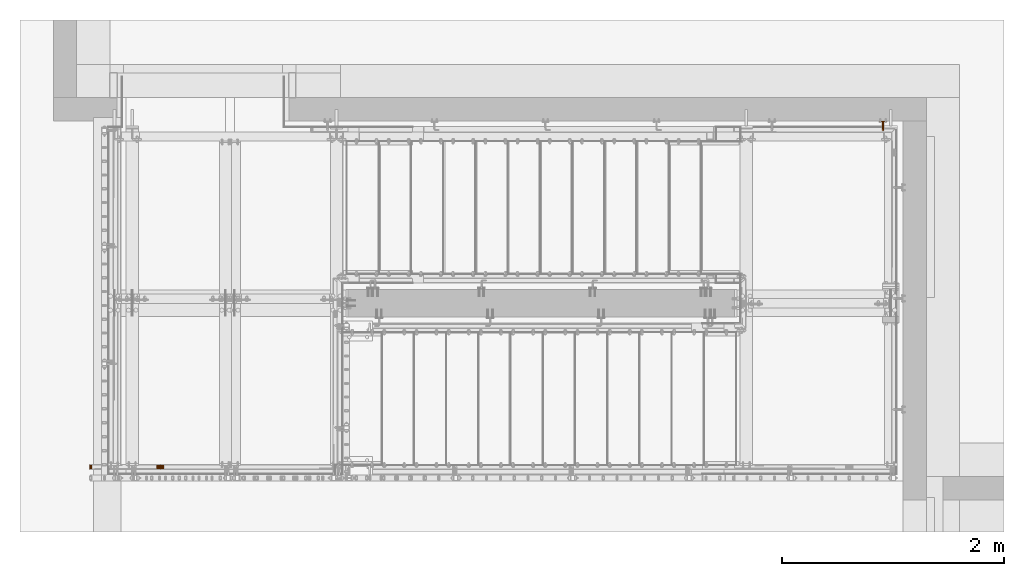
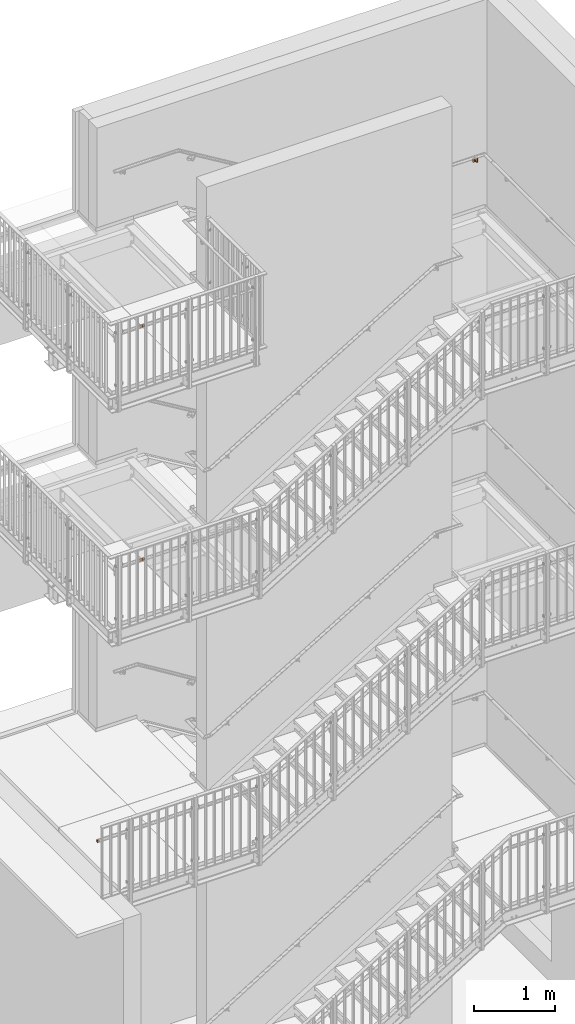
# One storey, part 399 of 410: 4 proxies.
"""IFC2X3 building model written with IfcOpenShell, lengths in millimetres."""

import ifcopenshell
import ifcopenshell.guid

model = None  # the IFC model being written
_history = None  # IfcOwnerHistory: only IFC2X3 demands one
_inside = {}  # id of a spatial element -> (the spatial element, [elements in it])
_under = {}  # id of a project, library or spatial element -> (it, [spatial elements below it])
_declared = {}  # id of a project -> (the project, [libraries it declares])
_typed = {}  # id of a type object -> (the type object, [elements of that type])
_made_of = {}  # id of a material, layer set ... -> (it, [elements and type objects made of it])


def new_model(schema):
    """Start an empty IFC model of exactly this schema.

    Asked for "IFC4X3", IfcOpenShell would pick the latest addendum, in which some entities
    have other attributes; the version numbers below select the first issue.
    IFC2X3 requires an IfcOwnerHistory on every rooted entity: one is made here for all.
    """
    global model, _history
    if schema == "IFC4X3":
        model = ifcopenshell.file(schema_version=(4, 3, 0, 0))
    else:
        model = ifcopenshell.file(schema=schema)
    _inside.clear()
    _under.clear()
    _declared.clear()
    _typed.clear()
    _made_of.clear()
    _history = None
    if model.schema == "IFC2X3":
        org = make("IfcOrganization", Name="unknown")
        user = make(
            "IfcPersonAndOrganization",
            ThePerson=make("IfcPerson", FamilyName="unknown"),
            TheOrganization=org,
        )
        app = make(
            "IfcApplication",
            ApplicationDeveloper=org,
            Version="unknown",
            ApplicationFullName="unknown",
            ApplicationIdentifier="unknown",
        )
        _history = make(
            "IfcOwnerHistory",
            OwningUser=user,
            OwningApplication=app,
            ChangeAction="ADDED",
            CreationDate=0,
        )
    return model


def make(cls, **values):
    """One entity of the class cls with the attributes given. An attribute that is None is left unset."""
    return model.create_entity(
        cls, **{name: value for name, value in values.items() if value is not None}
    )


def entity(cls, *values):
    """Any entity or typed value of the class cls, its attributes in the order of the schema. None: left unset."""
    e = model.create_entity(cls)
    for i, value in enumerate(values):
        if value is not None:
            e[i] = value
    return e


def rooted(cls, **values):
    """An entity with a GlobalId (a new one), such as an element, a storey or a relation."""
    return make(cls, GlobalId=ifcopenshell.guid.new(), OwnerHistory=_history, **values)


def si_unit(unit_type, name, prefix=None):
    """IfcSIUnit, for example si_unit("LENGTHUNIT", "METRE", prefix="MILLI")."""
    return make("IfcSIUnit", UnitType=unit_type, Prefix=prefix, Name=name)


def converted_unit(unit_type, name, factor, base, dimensions=None, offset=None):
    """IfcConversionBasedUnit, such as the inch: factor (a typed value) times the base unit."""
    return make(
        "IfcConversionBasedUnit"
        if offset is None
        else "IfcConversionBasedUnitWithOffset",
        ConversionOffset=offset,
        Dimensions=None
        if dimensions is None
        else entity("IfcDimensionalExponents", *dimensions),
        UnitType=unit_type,
        Name=name,
        ConversionFactor=make(
            "IfcMeasureWithUnit", ValueComponent=factor, UnitComponent=base
        ),
    )


def assignment(units):
    """IfcUnitAssignment: the units of a project."""
    return None if units is None else make("IfcUnitAssignment", Units=units)


def point(xyz):
    """IfcCartesianPoint."""
    return None if xyz is None else make("IfcCartesianPoint", Coordinates=xyz)


def direction(xyz):
    """IfcDirection."""
    return None if xyz is None else make("IfcDirection", DirectionRatios=xyz)


def frame(location, z_axis=None, x_axis=None):
    """IfcAxis2Placement3D, a coordinate frame: its origin and axes. An axis left out is left unset."""
    return make(
        "IfcAxis2Placement3D",
        Location=point(location),
        Axis=direction(z_axis),
        RefDirection=direction(x_axis),
    )


def origin_with_axes():
    """The frame at (0, 0, 0) with the z axis (0, 0, 1) and the x axis (1, 0, 0) written out."""
    return frame((0.0, 0.0, 0.0), z_axis=(0.0, 0.0, 1.0), x_axis=(1.0, 0.0, 0.0))


def place(relative_to, where):
    """IfcLocalPlacement: puts the frame where relative to a parent placement (None: the world)."""
    return make(
        "IfcLocalPlacement", PlacementRelTo=relative_to, RelativePlacement=where
    )


def context(
    kind, dimensions, precision=None, world=None, true_north=None, identifier=None
):
    """IfcGeometricRepresentationContext, for example the 3D "Model" context."""
    return make(
        "IfcGeometricRepresentationContext",
        ContextIdentifier=identifier,
        ContextType=kind,
        CoordinateSpaceDimension=dimensions,
        Precision=precision,
        WorldCoordinateSystem=world,
        TrueNorth=true_north,
    )


def project(units=None, contexts=None):
    """IfcProject with its units and contexts."""
    return rooted(
        "IfcProject",
        Name="project",
        RepresentationContexts=contexts,
        UnitsInContext=assignment(units),
    )


def spatial(cls, under=None, at=None, **own):
    """A site, building, storey or space (cls), placed at a placement, below another one or the project."""
    s = rooted(cls, ObjectPlacement=at, **own)
    if under is not None:
        _under.setdefault(under.id(), (under, []))[1].append(s)
    return s


def faces_of(points, faces, orient=None, outer=None):
    """IfcFace entities. A face is a list of loops; a loop is a list of indices into points, from 0.

    orient and outer hold one flag for each loop. By default every Orientation is true, the
    first loop of a face is its IfcFaceOuterBound and the others are IfcFaceBound.
    """
    made = []
    for i, loops in enumerate(faces):
        bounds = []
        for j, loop in enumerate(loops):
            is_outer = j == 0 if outer is None else outer[i][j]
            bounds.append(
                make(
                    "IfcFaceOuterBound" if is_outer else "IfcFaceBound",
                    Bound=make("IfcPolyLoop", Polygon=[points[k] for k in loop]),
                    Orientation=True if orient is None else orient[i][j],
                )
            )
        made.append(make("IfcFace", Bounds=bounds))
    return made


def faceted_brep(points, faces, orient=None, outer=None, voids=None):
    """IfcFacetedBrep: a solid bounded by flat faces; with voids (closed shells), ...WithVoids."""
    shared = [point(p) for p in points]
    hull = make("IfcClosedShell", CfsFaces=faces_of(shared, faces, orient, outer))
    if voids is None:
        return make("IfcFacetedBrep", Outer=hull)
    return make(
        "IfcFacetedBrepWithVoids",
        Outer=hull,
        Voids=[
            make(cls, CfsFaces=faces_of(shared, fs, o, b)) for cls, fs, o, b in voids
        ],
    )


def shape(context_of_items, identifier, shape_type, items):
    """IfcShapeRepresentation: the items that make up one representation, for example the "Body"."""
    return make(
        "IfcShapeRepresentation",
        ContextOfItems=context_of_items,
        RepresentationIdentifier=identifier,
        RepresentationType=shape_type,
        Items=items,
    )


def made_of(thing, what):
    """Note that an element or type object is made of a material, layer set ...; save() writes the relation."""
    if what is not None:
        _made_of.setdefault(what.id(), (what, []))[1].append(thing)
    return thing


def element(
    cls,
    number,
    at=None,
    inside=None,
    cuts=None,
    type_object=None,
    material=None,
    context=None,
    identifier="Body",
    shape_type=None,
    held_by="IfcProductDefinitionShape",
    body=None,
    shapes=None,
    **own,
):
    """One element of the class cls, such as IfcWall. Its Tag is "e" and its number.

    at: its placement. inside: the storey or other place that contains it. cuts: it is an
    opening in that element (IfcRelVoidsElement). A single representation is given by context,
    identifier, shape_type and body (its items); several are given by shapes. held_by: the class
    of the entity that holds the representations. save() writes the other relations.
    """
    e = rooted(cls, Tag="e%d" % number, ObjectPlacement=at, **own)
    if body is not None:
        shapes = [shape(context, identifier, shape_type, body)]
    if shapes is not None:
        e.Representation = make(held_by, Representations=shapes)
    if inside is not None:
        _inside.setdefault(inside.id(), (inside, []))[1].append(e)
    if cuts is not None:
        rooted(
            "IfcRelVoidsElement", RelatingBuildingElement=cuts, RelatedOpeningElement=e
        )
    if type_object is not None:
        _typed.setdefault(type_object.id(), (type_object, []))[1].append(e)
    return made_of(e, material)


def aggregate(whole, parts):
    """IfcRelAggregates: a whole, such as a stair, and the parts it consists of."""
    return rooted("IfcRelAggregates", RelatingObject=whole, RelatedObjects=parts)


def save(model, path):
    """Write the relations noted so far, then the file.

    IfcRelAggregates (storeys below a building ...), IfcRelContainedInSpatialStructure (elements
    in a storey), IfcRelDefinesByType, IfcRelAssociatesMaterial and IfcRelDeclares: one each for
    every whole, place, type object, material and project.
    """
    for whole, parts in _under.values():
        aggregate(whole, parts)
    for where, things in _inside.values():
        rooted(
            "IfcRelContainedInSpatialStructure",
            RelatedElements=things,
            RelatingStructure=where,
        )
    for kind, things in _typed.values():
        rooted("IfcRelDefinesByType", RelatedObjects=things, RelatingType=kind)
    for what, things in _made_of.values():
        rooted("IfcRelAssociatesMaterial", RelatedObjects=things, RelatingMaterial=what)
    for by, libraries in _declared.values():
        rooted("IfcRelDeclares", RelatingContext=by, RelatedDefinitions=libraries)
    model.write(path)


model = new_model("IFC2X3")

# Units and contexts
model_context = context("Model", 3, precision=1e-09, world=origin_with_axes())
ifc_project = project(units=[si_unit("LENGTHUNIT", "METRE", prefix="MILLI"), si_unit("AREAUNIT", "SQUARE_METRE"), si_unit("VOLUMEUNIT", "CUBIC_METRE"), converted_unit("PLANEANGLEUNIT", "DEGREE", entity("IfcPlaneAngleMeasure", 0.01745329), si_unit("PLANEANGLEUNIT", "RADIAN"), dimensions=[0, 0, 0, 0, 0, 0, 0])], contexts=[model_context])

# Site, building, storey
site_placement = place(None, origin_with_axes())
site = spatial("IfcSite", under=ifc_project, at=site_placement, Name="mKR Teilneubau & Sanierung BA1 - Ostfildern", CompositionType="ELEMENT")
building_placement = place(site_placement, origin_with_axes())
building = spatial("IfcBuilding", under=site, at=building_placement, Name="Struktur 1", CompositionType="ELEMENT")
storey_placement = place(building_placement, origin_with_axes())
storey = spatial("IfcBuildingStorey", under=building, at=storey_placement, Name="Default Storey", CompositionType="ELEMENT", Elevation=0.0)

# Proxies
proxy_1_placement = place(None, origin_with_axes())
element("IfcBuildingElementProxy", 1, at=proxy_1_placement, inside=storey, ObjectType="-", context=model_context, shape_type="Brep", body=[
    faceted_brep([(3081.31860902, 18620.000061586, 6659.725), (3081.31860902, 18614.000061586, 6659.725), (3080.749216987, 18614.000061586, 6657.6), (3080.749216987, 18620.000061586, 6657.6), (3129.142402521, 18614.000061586, 6686.900826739), (3118.591209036, 18614.000061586, 6691.529009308), (3107.108939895, 18614.000061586, 6692.480457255), (3095.939877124, 18614.000061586, 6689.652066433), (3086.29436198, 18614.000061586, 6683.350336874), (3079.217635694, 18614.000061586, 6674.258158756), (3075.476571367, 18614.000061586, 6663.36081066), (3075.476571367, 18614.000061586, 6651.83918934), (3079.217635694, 18614.000061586, 6640.941841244), (3086.29436198, 18614.000061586, 6631.849663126), (3095.939877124, 18614.000061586, 6625.547933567), (3107.108939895, 18614.000061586, 6622.719542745), (3118.591209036, 18614.000061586, 6623.670990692), (3129.142402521, 18614.000061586, 6628.299173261), (3137.619134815, 18614.000061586, 6636.102555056), (3143.102820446, 18614.000061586, 6646.235518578), (3144.999216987, 18614.000061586, 6657.6), (3143.102820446, 18614.000061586, 6668.964481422), (3137.619134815, 18614.000061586, 6679.097444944), (3082.874216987, 18614.000061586, 6661.280607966), (3084.999216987, 18614.000061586, 6661.85), (3087.124216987, 18614.000061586, 6661.280607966), (3088.679824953, 18614.000061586, 6659.725), (3089.249216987, 18614.000061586, 6657.6), (3088.679824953, 18614.000061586, 6655.475), (3087.124216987, 18614.000061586, 6653.919392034), (3084.999216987, 18614.000061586, 6653.35), (3082.874216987, 18614.000061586, 6653.919392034), (3081.31860902, 18614.000061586, 6655.475), (3131.31860902, 18614.000061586, 6659.725), (3132.874216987, 18614.000061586, 6661.280607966), (3134.999216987, 18614.000061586, 6661.85), (3137.124216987, 18614.000061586, 6661.280607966), (3138.679824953, 18614.000061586, 6659.725), (3139.249216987, 18614.000061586, 6657.6), (3138.679824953, 18614.000061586, 6655.475), (3137.124216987, 18614.000061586, 6653.919392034), (3134.999216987, 18614.000061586, 6653.35), (3132.874216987, 18614.000061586, 6653.919392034), (3131.31860902, 18614.000061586, 6655.475), (3130.749216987, 18614.000061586, 6657.6), (3082.874216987, 18620.000061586, 6661.280607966), (3129.142402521, 18620.000061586, 6628.299173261), (3118.591209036, 18620.000061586, 6623.670990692), (3107.108939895, 18620.000061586, 6622.719542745), (3095.939877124, 18620.000061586, 6625.547933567), (3086.29436198, 18620.000061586, 6631.849663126), (3079.217635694, 18620.000061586, 6640.941841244), (3075.476571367, 18620.000061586, 6651.83918934), (3075.476571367, 18620.000061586, 6663.36081066), (3079.217635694, 18620.000061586, 6674.258158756), (3086.29436198, 18620.000061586, 6683.350336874), (3095.939877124, 18620.000061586, 6689.652066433), (3107.108939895, 18620.000061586, 6692.480457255), (3118.591209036, 18620.000061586, 6691.529009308), (3129.142402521, 18620.000061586, 6686.900826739), (3137.619134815, 18620.000061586, 6679.097444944), (3143.102820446, 18620.000061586, 6668.964481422), (3144.999216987, 18620.000061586, 6657.6), (3143.102820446, 18620.000061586, 6646.235518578), (3137.619134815, 18620.000061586, 6636.102555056), (3081.31860902, 18620.000061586, 6655.475), (3082.874216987, 18620.000061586, 6653.919392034), (3084.999216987, 18620.000061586, 6653.35), (3087.124216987, 18620.000061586, 6653.919392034), (3088.679824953, 18620.000061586, 6655.475), (3089.249216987, 18620.000061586, 6657.6), (3088.679824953, 18620.000061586, 6659.725), (3087.124216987, 18620.000061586, 6661.280607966), (3084.999216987, 18620.000061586, 6661.85), (3131.31860902, 18620.000061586, 6655.475), (3132.874216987, 18620.000061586, 6653.919392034), (3134.999216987, 18620.000061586, 6653.35), (3137.124216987, 18620.000061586, 6653.919392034), (3138.679824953, 18620.000061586, 6655.475), (3139.249216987, 18620.000061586, 6657.6), (3138.679824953, 18620.000061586, 6659.725), (3137.124216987, 18620.000061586, 6661.280607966), (3134.999216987, 18620.000061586, 6661.85), (3132.874216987, 18620.000061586, 6661.280607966), (3131.31860902, 18620.000061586, 6659.725), (3130.749216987, 18620.000061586, 6657.6)], [[[0, 1, 2, 3]], [[4, 5, 6, 7, 8, 9, 10, 11, 12, 13, 14, 15, 16, 17, 18, 19, 20, 21, 22], [2, 1, 23, 24, 25, 26, 27, 28, 29, 30, 31, 32], [33, 34, 35, 36, 37, 38, 39, 40, 41, 42, 43, 44]], [[1, 0, 45, 23]], [[46, 47, 48, 49, 50, 51, 52, 53, 54, 55, 56, 57, 58, 59, 60, 61, 62, 63, 64], [0, 3, 65, 66, 67, 68, 69, 70, 71, 72, 73, 45], [74, 75, 76, 77, 78, 79, 80, 81, 82, 83, 84, 85]], [[3, 2, 32, 65]], [[10, 53, 52, 11]], [[65, 32, 31, 66]], [[23, 45, 73, 24]], [[53, 10, 9, 54]], [[66, 31, 30, 67]], [[11, 52, 51, 12]], [[24, 73, 72, 25]], [[8, 55, 54, 9]], [[67, 30, 29, 68]], [[55, 8, 7, 56]], [[50, 13, 12, 51]], [[25, 72, 71, 26]], [[13, 50, 49, 14]], [[68, 29, 28, 69]], [[26, 71, 70, 27]], [[56, 7, 6, 57]], [[69, 28, 27, 70]], [[14, 49, 48, 15]], [[57, 6, 5, 58]], [[44, 85, 84, 33]], [[15, 48, 47, 16]], [[85, 44, 43, 74]], [[33, 84, 83, 34]], [[58, 5, 4, 59]], [[16, 47, 46, 17]], [[74, 43, 42, 75]], [[34, 83, 82, 35]], [[59, 4, 22, 60]], [[17, 46, 64, 18]], [[75, 42, 41, 76]], [[35, 82, 81, 36]], [[60, 22, 21, 61]], [[18, 64, 63, 19]], [[76, 41, 40, 77]], [[20, 62, 61, 21]], [[36, 81, 80, 37]], [[62, 20, 19, 63]], [[77, 40, 39, 78]], [[37, 80, 79, 38]], [[78, 39, 38, 79]]]),
    faceted_brep([(3115.999216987, 18558.000061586, 6657.6), (3115.999216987, 18614.000061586, 6657.6), (3115.195369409, 18614.000061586, 6660.6), (3115.195369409, 18558.000061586, 6660.6), (3115.195369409, 18537.000061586, 6675.6), (3115.195369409, 18537.000061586, 6732.6), (3112.999216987, 18534.803909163, 6732.6), (3112.999216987, 18534.803909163, 6675.6), (3115.999216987, 18540.000061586, 6675.6), (3115.999216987, 18540.000061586, 6732.6), (3112.999216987, 18536.569611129, 6666.723216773), (3115.195369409, 18538.598591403, 6667.56364792), (3106.999216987, 18614.000061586, 6652.403847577), (3104.803064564, 18614.000061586, 6654.6), (3103.999216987, 18614.000061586, 6657.6), (3104.803064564, 18614.000061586, 6660.6), (3106.999216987, 18614.000061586, 6662.796152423), (3109.999216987, 18614.000061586, 6663.6), (3112.999216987, 18614.000061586, 6662.796152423), (3115.195369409, 18614.000061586, 6654.6), (3112.999216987, 18614.000061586, 6652.403847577), (3109.999216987, 18614.000061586, 6651.6), (3115.195369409, 18558.000061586, 6654.6), (3115.195369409, 18552.2598101, 6661.741807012), (3115.999216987, 18551.111759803, 6658.970168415), (3106.999216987, 18545.196214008, 6732.6), (3104.803064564, 18543.000061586, 6732.6), (3103.999216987, 18540.000061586, 6732.6), (3104.803064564, 18537.000061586, 6732.6), (3106.999216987, 18534.803909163, 6732.6), (3109.999216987, 18534.000061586, 6732.6), (3115.195369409, 18543.000061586, 6732.6), (3112.999216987, 18545.196214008, 6732.6), (3109.999216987, 18546.000061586, 6732.6), (3115.999216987, 18541.37023, 6668.711698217), (3115.195369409, 18543.150819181, 6660.750757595), (3115.999216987, 18545.272139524, 6662.872077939), (3112.999216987, 18558.000061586, 6662.796152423), (3115.195369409, 18549.963709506, 6656.198529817), (3109.999216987, 18534.000061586, 6675.6), (3115.195369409, 18543.000061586, 6675.6), (3109.999216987, 18535.826952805, 6666.415597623), (3112.999216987, 18541.59790491, 6659.197843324), (3115.195369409, 18547.393459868, 6664.993398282), (3112.999216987, 18553.100241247, 6663.770787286), (3112.999216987, 18558.000061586, 6652.403847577), (3115.195369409, 18544.141868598, 6669.859748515), (3109.999216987, 18558.000061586, 6663.6), (3112.999216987, 18549.123278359, 6654.169549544), (3106.999216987, 18534.803909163, 6675.6), (3112.999216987, 18545.196214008, 6675.6), (3106.999216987, 18536.569611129, 6666.723216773), (3109.999216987, 18541.029498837, 6658.629437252), (3112.999216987, 18548.946374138, 6666.546312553), (3109.999216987, 18553.407860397, 6664.51344561), (3109.999216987, 18558.000061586, 6651.6), (3112.999216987, 18546.170848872, 6670.700179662), (3104.803064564, 18537.000061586, 6675.6), (3106.999216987, 18558.000061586, 6662.796152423), (3109.999216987, 18548.815659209, 6653.42689122), (3109.999216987, 18546.000061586, 6675.6), (3104.803064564, 18538.598591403, 6667.56364792), (3106.999216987, 18541.59790491, 6659.197843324), (3109.999216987, 18549.514780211, 6667.114718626), (3106.999216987, 18553.100241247, 6663.770787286), (3106.999216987, 18558.000061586, 6652.403847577), (3109.999216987, 18546.913507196, 6671.007798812), (3103.999216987, 18540.000061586, 6675.6), (3104.803064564, 18558.000061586, 6660.6), (3106.999216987, 18549.123278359, 6654.169549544), (3106.999216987, 18545.196214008, 6675.6), (3104.803064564, 18543.000061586, 6675.6), (3103.999216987, 18541.37023, 6668.711698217), (3104.803064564, 18543.150819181, 6660.750757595), (3106.999216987, 18548.946374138, 6666.546312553), (3104.803064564, 18552.2598101, 6661.741807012), (3103.999216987, 18558.000061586, 6657.6), (3104.803064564, 18558.000061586, 6654.6), (3106.999216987, 18546.170848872, 6670.700179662), (3104.803064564, 18549.963709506, 6656.198529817), (3104.803064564, 18544.141868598, 6669.859748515), (3103.999216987, 18545.272139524, 6662.872077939), (3103.999216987, 18551.111759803, 6658.970168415), (3104.803064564, 18547.393459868, 6664.993398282)], [[[0, 1, 2, 3]], [[4, 5, 6, 7]], [[5, 4, 8, 9]], [[4, 7, 10, 11]], [[12, 13, 14, 15, 16, 17, 18, 2, 1, 19, 20, 21]], [[1, 0, 22, 19]], [[0, 3, 23, 24]], [[25, 26, 27, 28, 29, 30, 6, 5, 9, 31, 32, 33]], [[11, 34, 8, 4]], [[35, 36, 34, 11]], [[3, 2, 18, 37]], [[24, 38, 22, 0]], [[36, 35, 38, 24]], [[7, 6, 30, 39]], [[9, 8, 40, 31]], [[7, 39, 41, 10]], [[11, 10, 42, 35]], [[24, 23, 43, 36]], [[3, 37, 44, 23]], [[19, 22, 45, 20]], [[36, 43, 46, 34]], [[34, 46, 40, 8]], [[37, 18, 17, 47]], [[38, 48, 45, 22]], [[35, 42, 48, 38]], [[39, 30, 29, 49]], [[31, 40, 50, 32]], [[39, 49, 51, 41]], [[10, 41, 52, 42]], [[23, 44, 53, 43]], [[37, 47, 54, 44]], [[20, 45, 55, 21]], [[43, 53, 56, 46]], [[46, 56, 50, 40]], [[49, 29, 28, 57]], [[47, 17, 16, 58]], [[48, 59, 55, 45]], [[42, 52, 59, 48]], [[32, 50, 60, 33]], [[49, 57, 61, 51]], [[41, 51, 62, 52]], [[44, 54, 63, 53]], [[47, 58, 64, 54]], [[21, 55, 65, 12]], [[56, 66, 60, 50]], [[53, 63, 66, 56]], [[57, 28, 27, 67]], [[58, 16, 15, 68]], [[59, 69, 65, 55]], [[52, 62, 69, 59]], [[33, 60, 70, 25]], [[26, 71, 67, 27]], [[25, 70, 71, 26]], [[57, 67, 72, 61]], [[51, 61, 73, 62]], [[54, 64, 74, 63]], [[58, 68, 75, 64]], [[14, 76, 68, 15]], [[13, 77, 76, 14]], [[12, 65, 77, 13]], [[66, 78, 70, 60]], [[63, 74, 78, 66]], [[69, 79, 77, 65]], [[62, 73, 79, 69]], [[67, 71, 80, 72]], [[71, 70, 78, 80]], [[61, 72, 81, 73]], [[68, 76, 82, 75]], [[64, 75, 83, 74]], [[76, 77, 79, 82]], [[74, 83, 80, 78]], [[73, 81, 82, 79]], [[72, 80, 83, 81]], [[75, 82, 81, 83]]]),
])
proxy_2_placement = place(None, origin_with_axes())
element("IfcBuildingElementProxy", 2, at=proxy_2_placement, inside=storey, ObjectType="-", context=model_context, shape_type="Brep", body=[
    faceted_brep([(-4033.78424607, 15501.592272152, 849.536729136), (-4033.78424607, 15493.538952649, 845.951160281), (-4030.78424607, 15493.538952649, 845.951160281), (-4030.78424607, 15501.592272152, 849.536729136), (-4030.78424607, 15518.461047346, 845.951160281), (-4030.78424607, 15510.407727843, 849.536729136), (-4030.78424607, 15487.640261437, 839.4), (-4030.78424607, 15484.916135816, 831.016003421), (-4030.78424607, 15485.837601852, 822.248839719), (-4030.78424607, 15490.245329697, 814.614431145), (-4030.78424607, 15497.377183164, 809.432836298), (-4030.78424607, 15505.999999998, 807.6), (-4030.78424607, 15514.622816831, 809.432836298), (-4030.78424607, 15521.754670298, 814.614431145), (-4030.78424607, 15526.162398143, 822.248839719), (-4030.78424607, 15527.083864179, 831.016003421), (-4030.78424607, 15524.359738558, 839.4), (-4030.78424607, 15510.005376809, 846.348702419), (-4030.78424607, 15517.222816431, 842.872966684), (-4030.78424607, 15522.21743962, 836.609907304), (-4030.78424607, 15523.999999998, 828.8), (-4030.78424607, 15522.21743962, 820.990092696), (-4030.78424607, 15517.222816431, 814.727033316), (-4030.78424607, 15510.005376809, 811.251297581), (-4030.78424607, 15501.994623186, 811.251297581), (-4030.78424607, 15494.777183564, 814.727033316), (-4030.78424607, 15489.782560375, 820.990092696), (-4030.78424607, 15487.999999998, 828.8), (-4030.78424607, 15489.782560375, 836.609907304), (-4030.78424607, 15494.777183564, 842.872966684), (-4030.78424607, 15501.994623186, 846.348702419), (-4033.78424607, 15510.407727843, 849.536729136), (-4033.78424607, 15521.754670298, 814.614431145), (-4033.78424607, 15514.622816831, 809.432836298), (-4033.78424607, 15505.999999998, 807.6), (-4033.78424607, 15497.377183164, 809.432836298), (-4033.78424607, 15490.245329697, 814.614431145), (-4033.78424607, 15485.837601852, 822.248839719), (-4033.78424607, 15484.916135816, 831.016003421), (-4033.78424607, 15487.640261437, 839.4), (-4033.78424607, 15518.461047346, 845.951160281), (-4033.78424607, 15524.359738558, 839.4), (-4033.78424607, 15527.083864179, 831.016003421), (-4033.78424607, 15526.162398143, 822.248839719), (-4010.78424607, 15501.994623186, 846.348702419), (-4010.78424607, 15494.777183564, 842.872966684), (-4010.78424607, 15510.005376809, 846.348702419), (-4010.78424607, 15494.777183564, 814.727033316), (-4010.78424607, 15501.994623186, 811.251297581), (-4010.78424607, 15510.005376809, 811.251297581), (-4010.78424607, 15517.222816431, 814.727033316), (-4010.78424607, 15522.21743962, 820.990092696), (-4010.78424607, 15523.999999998, 828.8), (-4010.78424607, 15522.21743962, 836.609907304), (-4010.78424607, 15517.222816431, 842.872966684), (-4010.78424607, 15489.782560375, 836.609907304), (-4010.78424607, 15487.999999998, 828.8), (-4010.78424607, 15489.782560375, 820.990092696)], [[[0, 1, 2, 3]], [[4, 5, 3, 2, 6, 7, 8, 9, 10, 11, 12, 13, 14, 15, 16], [17, 18, 19, 20, 21, 22, 23, 24, 25, 26, 27, 28, 29, 30]], [[3, 5, 31, 0]], [[32, 33, 34, 35, 36, 37, 38, 39, 1, 0, 31, 40, 41, 42, 43]], [[44, 30, 29, 45]], [[30, 44, 46, 17]], [[1, 39, 6, 2]], [[5, 4, 40, 31]], [[47, 48, 49, 50, 51, 52, 53, 54, 46, 44, 45, 55, 56, 57]], [[45, 29, 28, 55]], [[17, 46, 54, 18]], [[39, 38, 7, 6]], [[4, 16, 41, 40]], [[55, 28, 27, 56]], [[18, 54, 53, 19]], [[38, 37, 8, 7]], [[16, 15, 42, 41]], [[9, 8, 37, 36]], [[56, 27, 26, 57]], [[19, 53, 52, 20]], [[10, 9, 36, 35]], [[15, 14, 43, 42]], [[25, 47, 57, 26]], [[35, 34, 11, 10]], [[20, 52, 51, 21]], [[47, 25, 24, 48]], [[14, 13, 32, 43]], [[48, 24, 23, 49]], [[34, 33, 12, 11]], [[33, 32, 13, 12]], [[21, 51, 50, 22]], [[49, 23, 22, 50]]]),
])
proxy_3_placement = place(None, origin_with_axes())
element("IfcBuildingElementProxy", 3, at=proxy_3_placement, inside=storey, ObjectType="-", context=model_context, shape_type="Brep", body=[
    faceted_brep([(-3429.9485317, 15517.222816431, 8314.727033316), (-3429.9485317, 15510.005376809, 8311.251297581), (-3429.9485317, 15501.994623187, 8311.251297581), (-3429.9485317, 15494.777183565, 8314.727033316), (-3429.9485317, 15489.782560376, 8320.990092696), (-3429.9485317, 15487.999999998, 8328.8), (-3429.9485317, 15489.782560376, 8336.609907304), (-3429.9485317, 15494.777183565, 8342.872966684), (-3429.9485317, 15501.994623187, 8346.348702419), (-3429.9485317, 15510.005376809, 8346.348702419), (-3429.9485317, 15517.222816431, 8342.872966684), (-3429.9485317, 15522.21743962, 8336.609907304), (-3429.9485317, 15523.999999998, 8328.8), (-3429.9485317, 15522.21743962, 8320.990092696), (-3399.9485317, 15501.994623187, 8346.348702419), (-3399.9485317, 15510.005376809, 8346.348702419), (-3399.9485317, 15517.222816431, 8342.872966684), (-3399.9485317, 15494.777183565, 8342.872966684), (-3399.9485317, 15494.777183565, 8314.727033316), (-3399.9485317, 15501.994623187, 8311.251297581), (-3399.9485317, 15510.005376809, 8311.251297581), (-3399.9485317, 15517.222816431, 8314.727033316), (-3399.9485317, 15522.21743962, 8320.990092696), (-3399.9485317, 15523.999999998, 8328.8), (-3399.9485317, 15522.21743962, 8336.609907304), (-3399.9485317, 15489.782560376, 8336.609907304), (-3399.9485317, 15487.999999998, 8328.8), (-3399.9485317, 15489.782560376, 8320.990092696)], [[[0, 1, 2, 3, 4, 5, 6, 7, 8, 9, 10, 11, 12, 13]], [[8, 14, 15, 9]], [[9, 15, 16, 10]], [[14, 8, 7, 17]], [[18, 19, 20, 21, 22, 23, 24, 16, 15, 14, 17, 25, 26, 27]], [[10, 16, 24, 11]], [[17, 7, 6, 25]], [[11, 24, 23, 12]], [[25, 6, 5, 26]], [[12, 23, 22, 13]], [[26, 5, 4, 27]], [[1, 20, 19, 2]], [[0, 21, 20, 1]], [[13, 22, 21, 0]], [[27, 4, 3, 18]], [[2, 19, 18, 3]]]),
    faceted_brep([(-3399.9485317, 15484.799999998, 8328.8), (-3394.9485317, 15484.799999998, 8328.8), (-3394.9485317, 15486.632836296, 8337.422816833), (-3399.9485317, 15486.632836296, 8337.422816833), (-3399.9485317, 15486.632836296, 8320.177183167), (-3394.9485317, 15486.632836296, 8320.177183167), (-3394.9485317, 15516.599999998, 8310.44026144), (-3394.9485317, 15523.151160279, 8316.338952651), (-3394.9485317, 15526.736729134, 8324.392272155), (-3394.9485317, 15526.736729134, 8333.207727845), (-3394.9485317, 15523.151160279, 8341.261047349), (-3394.9485317, 15516.599999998, 8347.15973856), (-3394.9485317, 15508.216003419, 8349.883864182), (-3394.9485317, 15499.448839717, 8348.962398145), (-3394.9485317, 15491.814431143, 8344.5546703), (-3394.9485317, 15491.814431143, 8313.0453297), (-3394.9485317, 15499.448839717, 8308.637601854), (-3394.9485317, 15508.216003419, 8307.716135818), (-3399.9485317, 15516.599999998, 8347.15973856), (-3399.9485317, 15523.151160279, 8341.261047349), (-3399.9485317, 15526.736729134, 8333.207727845), (-3399.9485317, 15526.736729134, 8324.392272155), (-3399.9485317, 15523.151160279, 8316.338952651), (-3399.9485317, 15516.599999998, 8310.44026144), (-3399.9485317, 15508.216003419, 8307.716135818), (-3399.9485317, 15499.448839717, 8308.637601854), (-3399.9485317, 15491.814431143, 8313.0453297), (-3399.9485317, 15491.814431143, 8344.5546703), (-3399.9485317, 15499.448839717, 8348.962398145), (-3399.9485317, 15508.216003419, 8349.883864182)], [[[0, 1, 2, 3]], [[1, 0, 4, 5]], [[6, 7, 8, 9, 10, 11, 12, 13, 14, 2, 1, 5, 15, 16, 17]], [[18, 19, 20, 21, 22, 23, 24, 25, 26, 4, 0, 3, 27, 28, 29]], [[3, 2, 14, 27]], [[5, 4, 26, 15]], [[27, 14, 13, 28]], [[15, 26, 25, 16]], [[12, 29, 28, 13]], [[16, 25, 24, 17]], [[29, 12, 11, 18]], [[18, 11, 10, 19]], [[17, 24, 23, 6]], [[22, 7, 6, 23]], [[21, 8, 7, 22]], [[20, 9, 8, 21]], [[19, 10, 9, 20]]]),
    faceted_brep([(-3394.9485317, 15517.222816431, 8314.727033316), (-3394.9485317, 15510.005376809, 8311.251297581), (-3394.9485317, 15501.994623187, 8311.251297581), (-3394.9485317, 15494.777183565, 8314.727033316), (-3394.9485317, 15489.782560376, 8320.990092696), (-3394.9485317, 15487.999999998, 8328.8), (-3394.9485317, 15489.782560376, 8336.609907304), (-3394.9485317, 15494.777183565, 8342.872966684), (-3394.9485317, 15501.994623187, 8346.348702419), (-3394.9485317, 15510.005376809, 8346.348702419), (-3394.9485317, 15517.222816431, 8342.872966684), (-3394.9485317, 15522.21743962, 8336.609907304), (-3394.9485317, 15523.999999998, 8328.8), (-3394.9485317, 15522.21743962, 8320.990092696), (-3364.9485317, 15501.994623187, 8346.348702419), (-3364.9485317, 15510.005376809, 8346.348702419), (-3364.9485317, 15517.222816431, 8342.872966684), (-3364.9485317, 15494.777183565, 8342.872966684), (-3364.9485317, 15494.777183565, 8314.727033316), (-3364.9485317, 15501.994623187, 8311.251297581), (-3364.9485317, 15510.005376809, 8311.251297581), (-3364.9485317, 15517.222816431, 8314.727033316), (-3364.9485317, 15522.21743962, 8320.990092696), (-3364.9485317, 15523.999999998, 8328.8), (-3364.9485317, 15522.21743962, 8336.609907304), (-3364.9485317, 15489.782560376, 8336.609907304), (-3364.9485317, 15487.999999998, 8328.8), (-3364.9485317, 15489.782560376, 8320.990092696)], [[[0, 1, 2, 3, 4, 5, 6, 7, 8, 9, 10, 11, 12, 13]], [[8, 14, 15, 9]], [[9, 15, 16, 10]], [[14, 8, 7, 17]], [[18, 19, 20, 21, 22, 23, 24, 16, 15, 14, 17, 25, 26, 27]], [[10, 16, 24, 11]], [[17, 7, 6, 25]], [[11, 24, 23, 12]], [[25, 6, 5, 26]], [[12, 23, 22, 13]], [[26, 5, 4, 27]], [[1, 20, 19, 2]], [[20, 1, 0, 21]], [[3, 18, 27, 4]], [[2, 19, 18, 3]], [[13, 22, 21, 0]]]),
])
proxy_4_placement = place(None, origin_with_axes())
element("IfcBuildingElementProxy", 4, at=proxy_4_placement, inside=storey, ObjectType="-", context=model_context, shape_type="Brep", body=[
    faceted_brep([(-3429.9485317, 15517.222816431, 4814.727033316), (-3429.9485317, 15510.005376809, 4811.251297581), (-3429.9485317, 15501.994623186, 4811.251297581), (-3429.9485317, 15494.777183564, 4814.727033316), (-3429.9485317, 15489.782560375, 4820.990092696), (-3429.9485317, 15487.999999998, 4828.8), (-3429.9485317, 15489.782560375, 4836.609907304), (-3429.9485317, 15494.777183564, 4842.872966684), (-3429.9485317, 15501.994623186, 4846.348702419), (-3429.9485317, 15510.005376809, 4846.348702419), (-3429.9485317, 15517.222816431, 4842.872966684), (-3429.9485317, 15522.21743962, 4836.609907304), (-3429.9485317, 15523.999999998, 4828.8), (-3429.9485317, 15522.21743962, 4820.990092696), (-3399.9485317, 15501.994623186, 4846.348702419), (-3399.9485317, 15510.005376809, 4846.348702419), (-3399.9485317, 15517.222816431, 4842.872966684), (-3399.9485317, 15494.777183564, 4842.872966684), (-3399.9485317, 15494.777183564, 4814.727033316), (-3399.9485317, 15501.994623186, 4811.251297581), (-3399.9485317, 15510.005376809, 4811.251297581), (-3399.9485317, 15517.222816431, 4814.727033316), (-3399.9485317, 15522.21743962, 4820.990092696), (-3399.9485317, 15523.999999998, 4828.8), (-3399.9485317, 15522.21743962, 4836.609907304), (-3399.9485317, 15489.782560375, 4836.609907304), (-3399.9485317, 15487.999999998, 4828.8), (-3399.9485317, 15489.782560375, 4820.990092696)], [[[0, 1, 2, 3, 4, 5, 6, 7, 8, 9, 10, 11, 12, 13]], [[8, 14, 15, 9]], [[9, 15, 16, 10]], [[14, 8, 7, 17]], [[18, 19, 20, 21, 22, 23, 24, 16, 15, 14, 17, 25, 26, 27]], [[10, 16, 24, 11]], [[17, 7, 6, 25]], [[11, 24, 23, 12]], [[25, 6, 5, 26]], [[12, 23, 22, 13]], [[26, 5, 4, 27]], [[1, 20, 19, 2]], [[0, 21, 20, 1]], [[13, 22, 21, 0]], [[27, 4, 3, 18]], [[2, 19, 18, 3]]]),
    faceted_brep([(-3399.9485317, 15484.799999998, 4828.8), (-3394.9485317, 15484.799999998, 4828.8), (-3394.9485317, 15486.632836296, 4837.422816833), (-3399.9485317, 15486.632836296, 4837.422816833), (-3399.9485317, 15486.632836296, 4820.177183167), (-3394.9485317, 15486.632836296, 4820.177183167), (-3394.9485317, 15516.599999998, 4810.44026144), (-3394.9485317, 15523.151160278, 4816.338952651), (-3394.9485317, 15526.736729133, 4824.392272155), (-3394.9485317, 15526.736729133, 4833.207727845), (-3394.9485317, 15523.151160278, 4841.261047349), (-3394.9485317, 15516.599999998, 4847.15973856), (-3394.9485317, 15508.216003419, 4849.883864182), (-3394.9485317, 15499.448839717, 4848.962398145), (-3394.9485317, 15491.814431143, 4844.5546703), (-3394.9485317, 15491.814431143, 4813.0453297), (-3394.9485317, 15499.448839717, 4808.637601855), (-3394.9485317, 15508.216003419, 4807.716135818), (-3399.9485317, 15516.599999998, 4847.15973856), (-3399.9485317, 15523.151160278, 4841.261047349), (-3399.9485317, 15526.736729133, 4833.207727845), (-3399.9485317, 15526.736729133, 4824.392272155), (-3399.9485317, 15523.151160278, 4816.338952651), (-3399.9485317, 15516.599999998, 4810.44026144), (-3399.9485317, 15508.216003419, 4807.716135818), (-3399.9485317, 15499.448839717, 4808.637601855), (-3399.9485317, 15491.814431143, 4813.0453297), (-3399.9485317, 15491.814431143, 4844.5546703), (-3399.9485317, 15499.448839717, 4848.962398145), (-3399.9485317, 15508.216003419, 4849.883864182)], [[[0, 1, 2, 3]], [[1, 0, 4, 5]], [[6, 7, 8, 9, 10, 11, 12, 13, 14, 2, 1, 5, 15, 16, 17]], [[18, 19, 20, 21, 22, 23, 24, 25, 26, 4, 0, 3, 27, 28, 29]], [[3, 2, 14, 27]], [[5, 4, 26, 15]], [[27, 14, 13, 28]], [[15, 26, 25, 16]], [[12, 29, 28, 13]], [[16, 25, 24, 17]], [[29, 12, 11, 18]], [[18, 11, 10, 19]], [[17, 24, 23, 6]], [[22, 7, 6, 23]], [[21, 8, 7, 22]], [[20, 9, 8, 21]], [[19, 10, 9, 20]]]),
    faceted_brep([(-3394.9485317, 15517.222816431, 4814.727033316), (-3394.9485317, 15510.005376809, 4811.251297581), (-3394.9485317, 15501.994623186, 4811.251297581), (-3394.9485317, 15494.777183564, 4814.727033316), (-3394.9485317, 15489.782560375, 4820.990092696), (-3394.9485317, 15487.999999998, 4828.8), (-3394.9485317, 15489.782560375, 4836.609907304), (-3394.9485317, 15494.777183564, 4842.872966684), (-3394.9485317, 15501.994623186, 4846.348702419), (-3394.9485317, 15510.005376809, 4846.348702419), (-3394.9485317, 15517.222816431, 4842.872966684), (-3394.9485317, 15522.21743962, 4836.609907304), (-3394.9485317, 15523.999999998, 4828.8), (-3394.9485317, 15522.21743962, 4820.990092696), (-3364.9485317, 15501.994623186, 4846.348702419), (-3364.9485317, 15510.005376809, 4846.348702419), (-3364.9485317, 15517.222816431, 4842.872966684), (-3364.9485317, 15494.777183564, 4842.872966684), (-3364.9485317, 15494.777183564, 4814.727033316), (-3364.9485317, 15501.994623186, 4811.251297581), (-3364.9485317, 15510.005376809, 4811.251297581), (-3364.9485317, 15517.222816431, 4814.727033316), (-3364.9485317, 15522.21743962, 4820.990092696), (-3364.9485317, 15523.999999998, 4828.8), (-3364.9485317, 15522.21743962, 4836.609907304), (-3364.9485317, 15489.782560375, 4836.609907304), (-3364.9485317, 15487.999999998, 4828.8), (-3364.9485317, 15489.782560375, 4820.990092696)], [[[0, 1, 2, 3, 4, 5, 6, 7, 8, 9, 10, 11, 12, 13]], [[8, 14, 15, 9]], [[9, 15, 16, 10]], [[14, 8, 7, 17]], [[18, 19, 20, 21, 22, 23, 24, 16, 15, 14, 17, 25, 26, 27]], [[10, 16, 24, 11]], [[17, 7, 6, 25]], [[11, 24, 23, 12]], [[25, 6, 5, 26]], [[12, 23, 22, 13]], [[26, 5, 4, 27]], [[1, 20, 19, 2]], [[20, 1, 0, 21]], [[3, 18, 27, 4]], [[2, 19, 18, 3]], [[13, 22, 21, 0]]]),
])

save(model, "model.ifc")
